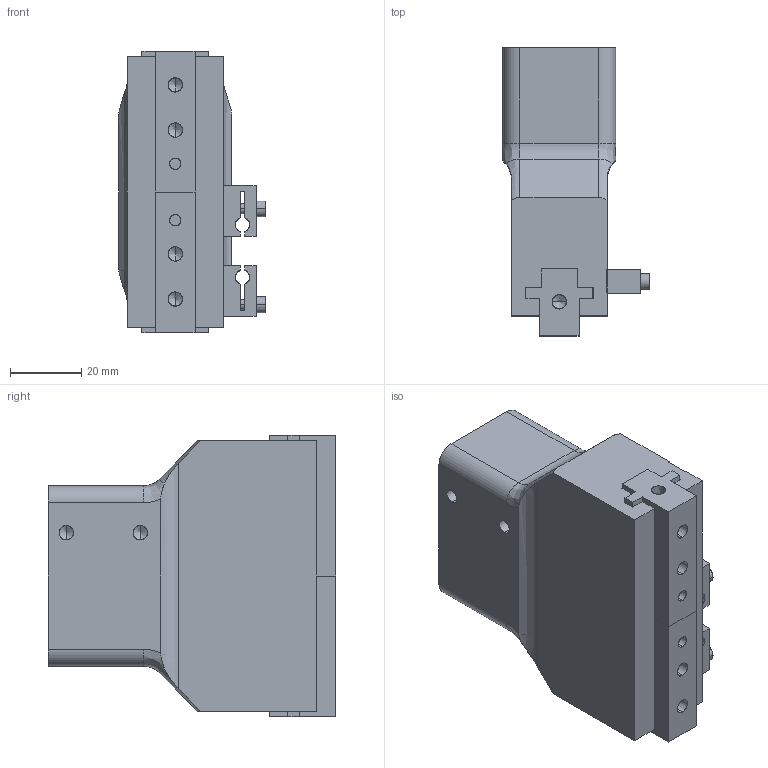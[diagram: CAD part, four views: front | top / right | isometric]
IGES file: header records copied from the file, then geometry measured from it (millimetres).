
Start section: SolidWorks IGES file using analytic representation for surfaces
Global section: file name: C:\Users\jmkuhnes\Pictures\PERSONAL\AGPT\AGPT-1125\AGPT-1125 CLOSED in MM.IGS; native system: SolidWorks 2013; preprocessor: SolidWorks 2013; author: jmkuhnes; date: 141031.153351; units: millimetre
Bounding box: 41.17 x 81.08 x 79.35 mm (x, y, z)
Surface area: 31525.1 mm2 (no closed solid volume)
Topology: 0 solids, 0 shells, 217 faces, 2652 edges, 2632 vertices
Faces by surface type: bspline 117, revolution 100
